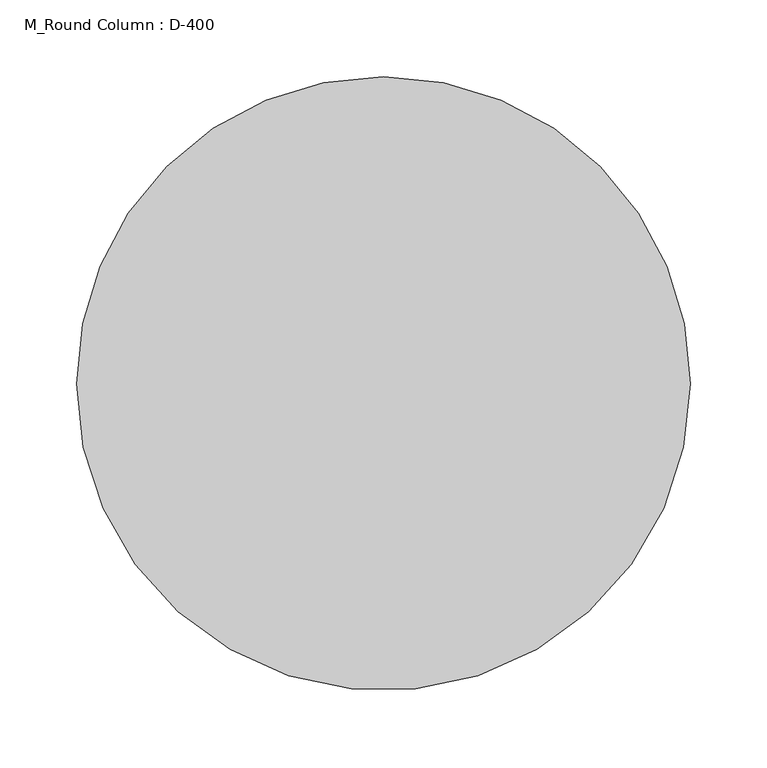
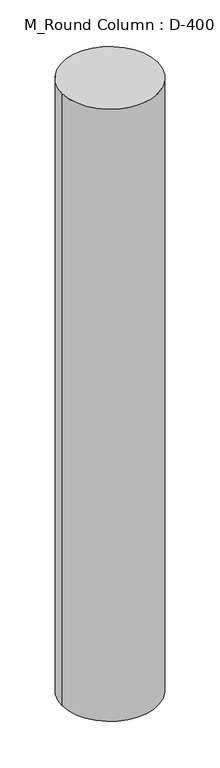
"""IFC4 building model written with IfcOpenShell, lengths in millimetres: column geometry, M_Round Column : D-400."""

import ifcopenshell
import ifcopenshell.guid

model = None  # the IFC model being written
_history = None  # IfcOwnerHistory: only IFC2X3 demands one
_inside = {}  # id of a spatial element -> (the spatial element, [elements in it])
_under = {}  # id of a project, library or spatial element -> (it, [spatial elements below it])
_declared = {}  # id of a project -> (the project, [libraries it declares])
_typed = {}  # id of a type object -> (the type object, [elements of that type])
_made_of = {}  # id of a material, layer set ... -> (it, [elements and type objects made of it])


def new_model(schema):
    """Start an empty IFC model of exactly this schema.

    Asked for "IFC4X3", IfcOpenShell would pick the latest addendum, in which some entities
    have other attributes; the version numbers below select the first issue.
    IFC2X3 requires an IfcOwnerHistory on every rooted entity: one is made here for all.
    """
    global model, _history
    if schema == "IFC4X3":
        model = ifcopenshell.file(schema_version=(4, 3, 0, 0))
    else:
        model = ifcopenshell.file(schema=schema)
    _inside.clear()
    _under.clear()
    _declared.clear()
    _typed.clear()
    _made_of.clear()
    _history = None
    if model.schema == "IFC2X3":
        org = make("IfcOrganization", Name="unknown")
        user = make(
            "IfcPersonAndOrganization",
            ThePerson=make("IfcPerson", FamilyName="unknown"),
            TheOrganization=org,
        )
        app = make(
            "IfcApplication",
            ApplicationDeveloper=org,
            Version="unknown",
            ApplicationFullName="unknown",
            ApplicationIdentifier="unknown",
        )
        _history = make(
            "IfcOwnerHistory",
            OwningUser=user,
            OwningApplication=app,
            ChangeAction="ADDED",
            CreationDate=0,
        )
    return model


def make(cls, **values):
    """One entity of the class cls with the attributes given. An attribute that is None is left unset."""
    return model.create_entity(
        cls, **{name: value for name, value in values.items() if value is not None}
    )


def rooted(cls, **values):
    """An entity with a GlobalId (a new one), such as an element, a storey or a relation."""
    return make(cls, GlobalId=ifcopenshell.guid.new(), OwnerHistory=_history, **values)


def si_unit(unit_type, name, prefix=None):
    """IfcSIUnit, for example si_unit("LENGTHUNIT", "METRE", prefix="MILLI")."""
    return make("IfcSIUnit", UnitType=unit_type, Prefix=prefix, Name=name)


def assignment(units):
    """IfcUnitAssignment: the units of a project."""
    return None if units is None else make("IfcUnitAssignment", Units=units)


def point(xyz):
    """IfcCartesianPoint."""
    return None if xyz is None else make("IfcCartesianPoint", Coordinates=xyz)


def direction(xyz):
    """IfcDirection."""
    return None if xyz is None else make("IfcDirection", DirectionRatios=xyz)


def frame(location, z_axis=None, x_axis=None):
    """IfcAxis2Placement3D, a coordinate frame: its origin and axes. An axis left out is left unset."""
    return make(
        "IfcAxis2Placement3D",
        Location=point(location),
        Axis=direction(z_axis),
        RefDirection=direction(x_axis),
    )


def frame_2d(location, x_axis=None):
    """IfcAxis2Placement2D, a coordinate frame in the plane: its origin and x axis."""
    return make(
        "IfcAxis2Placement2D", Location=point(location), RefDirection=direction(x_axis)
    )


def origin():
    """The frame at (0, 0, 0) with its axes left unset."""
    return frame((0.0, 0.0, 0.0))


def origin_2d():
    """The frame at (0, 0) in the plane with its x axis left unset."""
    return frame_2d((0.0, 0.0))


def place(relative_to, where):
    """IfcLocalPlacement: puts the frame where relative to a parent placement (None: the world)."""
    return make(
        "IfcLocalPlacement", PlacementRelTo=relative_to, RelativePlacement=where
    )


def context(
    kind, dimensions, precision=None, world=None, true_north=None, identifier=None
):
    """IfcGeometricRepresentationContext, for example the 3D "Model" context."""
    return make(
        "IfcGeometricRepresentationContext",
        ContextIdentifier=identifier,
        ContextType=kind,
        CoordinateSpaceDimension=dimensions,
        Precision=precision,
        WorldCoordinateSystem=world,
        TrueNorth=true_north,
    )


def project(units=None, contexts=None):
    """IfcProject with its units and contexts."""
    return rooted(
        "IfcProject",
        Name="project",
        RepresentationContexts=contexts,
        UnitsInContext=assignment(units),
    )


def spatial(cls, under=None, at=None, **own):
    """A site, building, storey or space (cls), placed at a placement, below another one or the project."""
    s = rooted(cls, ObjectPlacement=at, **own)
    if under is not None:
        _under.setdefault(under.id(), (under, []))[1].append(s)
    return s


def circle_curve(where, radius):
    """IfcCircle in the frame where."""
    return make("IfcCircle", Position=where, Radius=radius)


def trimmed(basis, trim1, trim2, sense, master):
    """IfcTrimmedCurve: the piece of a basis curve between two trims."""
    return make(
        "IfcTrimmedCurve",
        BasisCurve=basis,
        Trim1=trim1,
        Trim2=trim2,
        SenseAgreement=sense,
        MasterRepresentation=master,
    )


def segment(curve, same_sense, transition):
    """IfcCompositeCurveSegment."""
    return make(
        "IfcCompositeCurveSegment",
        Transition=transition,
        SameSense=same_sense,
        ParentCurve=curve,
    )


def composite_curve(segments, self_intersect=None):
    """IfcCompositeCurve: segments joined end to end."""
    return make("IfcCompositeCurve", Segments=segments, SelfIntersect=self_intersect)


def outline(outer, holes=None, kind="AREA"):
    """IfcArbitraryClosedProfileDef: a profile drawn as a closed curve; with holes, ...WithVoids."""
    if holes is None:
        return make("IfcArbitraryClosedProfileDef", ProfileType=kind, OuterCurve=outer)
    return make(
        "IfcArbitraryProfileDefWithVoids",
        ProfileType=kind,
        OuterCurve=outer,
        InnerCurves=holes,
    )


def extrude(swept, where, along, depth):
    """IfcExtrudedAreaSolid: the profile swept, set in the frame where, extruded along a direction by depth."""
    return make(
        "IfcExtrudedAreaSolid",
        SweptArea=swept,
        Position=where,
        ExtrudedDirection=direction(along),
        Depth=depth,
    )


def shape(context_of_items, identifier, shape_type, items):
    """IfcShapeRepresentation: the items that make up one representation, for example the "Body"."""
    return make(
        "IfcShapeRepresentation",
        ContextOfItems=context_of_items,
        RepresentationIdentifier=identifier,
        RepresentationType=shape_type,
        Items=items,
    )


def source(mapping_origin, context_of_items, identifier, shape_type, items):
    """IfcRepresentationMap: a shape defined once, which mapped items show again and again."""
    return make(
        "IfcRepresentationMap",
        MappingOrigin=mapping_origin,
        MappedRepresentation=shape(context_of_items, identifier, shape_type, items),
    )


def transform(
    local_origin,
    x_axis=None,
    y_axis=None,
    z_axis=None,
    scale=None,
    scale2=None,
    scale3=None,
    uniform=True,
):
    """IfcCartesianTransformationOperator3D, or its non-uniform kind. x_axis, y_axis, z_axis: its Axis1, 2, 3."""
    if uniform:
        return make(
            "IfcCartesianTransformationOperator3D",
            Axis1=direction(x_axis),
            Axis2=direction(y_axis),
            LocalOrigin=point(local_origin),
            Scale=scale,
            Axis3=direction(z_axis),
        )
    return make(
        "IfcCartesianTransformationOperator3DnonUniform",
        Axis1=direction(x_axis),
        Axis2=direction(y_axis),
        LocalOrigin=point(local_origin),
        Scale=scale,
        Axis3=direction(z_axis),
        Scale2=scale2,
        Scale3=scale3,
    )


def mapped(mapping_source, mapping_target):
    """IfcMappedItem: shows the shape of a source again, moved by a transform."""
    return make(
        "IfcMappedItem", MappingSource=mapping_source, MappingTarget=mapping_target
    )


def made_of(thing, what):
    """Note that an element or type object is made of a material, layer set ...; save() writes the relation."""
    if what is not None:
        _made_of.setdefault(what.id(), (what, []))[1].append(thing)
    return thing


def element(
    cls,
    number,
    at=None,
    inside=None,
    cuts=None,
    type_object=None,
    material=None,
    context=None,
    identifier="Body",
    shape_type=None,
    held_by="IfcProductDefinitionShape",
    body=None,
    shapes=None,
    **own,
):
    """One element of the class cls, such as IfcWall. Its Tag is "e" and its number.

    at: its placement. inside: the storey or other place that contains it. cuts: it is an
    opening in that element (IfcRelVoidsElement). A single representation is given by context,
    identifier, shape_type and body (its items); several are given by shapes. held_by: the class
    of the entity that holds the representations. save() writes the other relations.
    """
    e = rooted(cls, Tag="e%d" % number, ObjectPlacement=at, **own)
    if body is not None:
        shapes = [shape(context, identifier, shape_type, body)]
    if shapes is not None:
        e.Representation = make(held_by, Representations=shapes)
    if inside is not None:
        _inside.setdefault(inside.id(), (inside, []))[1].append(e)
    if cuts is not None:
        rooted(
            "IfcRelVoidsElement", RelatingBuildingElement=cuts, RelatedOpeningElement=e
        )
    if type_object is not None:
        _typed.setdefault(type_object.id(), (type_object, []))[1].append(e)
    return made_of(e, material)


def aggregate(whole, parts):
    """IfcRelAggregates: a whole, such as a stair, and the parts it consists of."""
    return rooted("IfcRelAggregates", RelatingObject=whole, RelatedObjects=parts)


def save(model, path):
    """Write the relations noted so far, then the file.

    IfcRelAggregates (storeys below a building ...), IfcRelContainedInSpatialStructure (elements
    in a storey), IfcRelDefinesByType, IfcRelAssociatesMaterial and IfcRelDeclares: one each for
    every whole, place, type object, material and project.
    """
    for whole, parts in _under.values():
        aggregate(whole, parts)
    for where, things in _inside.values():
        rooted(
            "IfcRelContainedInSpatialStructure",
            RelatedElements=things,
            RelatingStructure=where,
        )
    for kind, things in _typed.values():
        rooted("IfcRelDefinesByType", RelatedObjects=things, RelatingType=kind)
    for what, things in _made_of.values():
        rooted("IfcRelAssociatesMaterial", RelatedObjects=things, RelatingMaterial=what)
    for by, libraries in _declared.values():
        rooted("IfcRelDeclares", RelatingContext=by, RelatedDefinitions=libraries)
    model.write(path)


def m_round_column_d_400_5061d694(model_context):
    return source(origin(), model_context, "Body", "SweptSolid", [
        extrude(outline(composite_curve([segment(trimmed(circle_curve(origin_2d(), 200.0), [point((200.0, 0.0))], [point((-200.0, 0.0))], False, "CARTESIAN"), True, "CONTINUOUS"), segment(trimmed(circle_curve(origin_2d(), 200.0), [point((-200.0, 0.0))], [point((0.0, 200.0))], False, "CARTESIAN"), True, "CONTINUOUS"), segment(trimmed(circle_curve(origin_2d(), 200.0), [point((0.0, 200.0))], [point((200.0, 0.0))], False, "CARTESIAN"), True, "CONTINUOUS")], self_intersect=False)), frame((0.0, 0.0, 2480.0), z_axis=(0.0, 0.0, 1.0), x_axis=(1.0, 0.0, 0.0)), (0.0, 0.0, 1.0), 2720.0),
    ])


if __name__ == "__main__":
    model = new_model("IFC4")
    model_context = context("Model", 3, world=origin())
    ifc_project = project(units=[si_unit("LENGTHUNIT", "METRE", prefix="MILLI")], contexts=[model_context])
    site = spatial("IfcSite", under=ifc_project)
    building = spatial("IfcBuilding", under=site)
    placement = place(None, origin())
    m_round_column_d_400_shape = m_round_column_d_400_5061d694(model_context)
    element("IfcColumn", 1, ObjectType="M_Round Column : D-400", at=placement, inside=building, context=model_context, shape_type="MappedRepresentation", body=[
        mapped(m_round_column_d_400_shape, transform((0.0, 0.0, 0.0), x_axis=(1.0, 0.0, 0.0), y_axis=(0.0, 1.0, 0.0), z_axis=(0.0, 0.0, 1.0))),
    ])
    save(model, "model.ifc")
